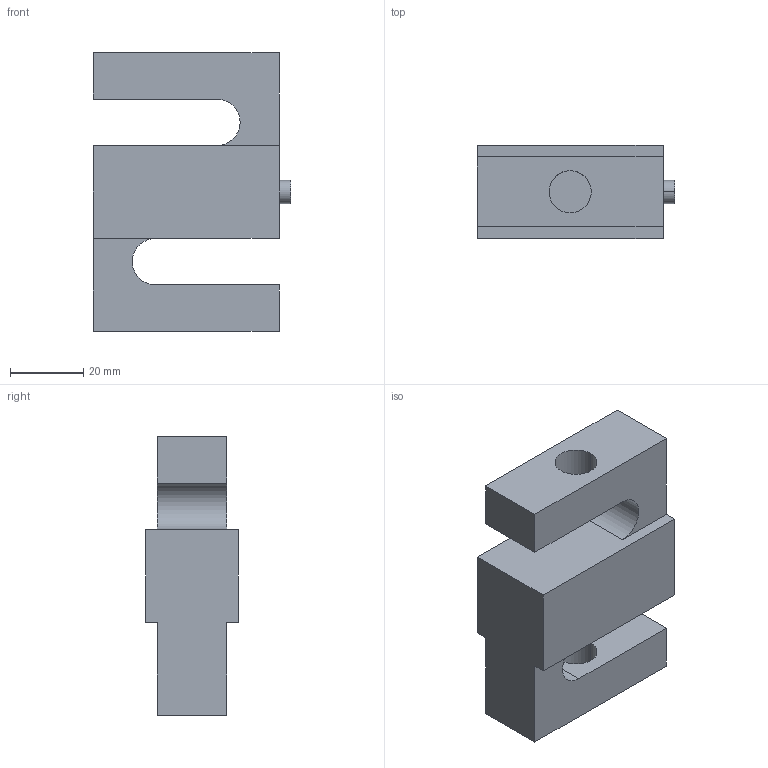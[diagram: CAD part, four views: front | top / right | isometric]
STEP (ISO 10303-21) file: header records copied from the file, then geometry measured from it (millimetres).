
FILE_DESCRIPTION (( 'STEP AP214' ), '1' );
FILE_NAME ('SS1009-500-1,500LB.STEP', '2014-05-20T18:52:27', ( '' ), ( '' ), 'SwSTEP 2.0', 'SolidWorks 2008', '' );
FILE_SCHEMA (( 'AUTOMOTIVE_DESIGN' ));
Length unit declared in the file: inch
Products named in the file (1): SS1009-500-1,500LB
Bounding box: 53.98 x 25.4 x 76.2 mm (x, y, z)
Volume: 60634.3 mm3; surface area: 14994.8 mm2
Topology: 1 solids, 1 shells, 25 faces, 66 edges, 44 vertices
Faces by surface type: plane 17, cylinder 8
Entity records: 863 total; most frequent: CARTESIAN_POINT 136, DIRECTION 134, ORIENTED_EDGE 132, EDGE_CURVE 66, LINE 50, VECTOR 50, VERTEX_POINT 44, AXIS2_PLACEMENT_3D 42
